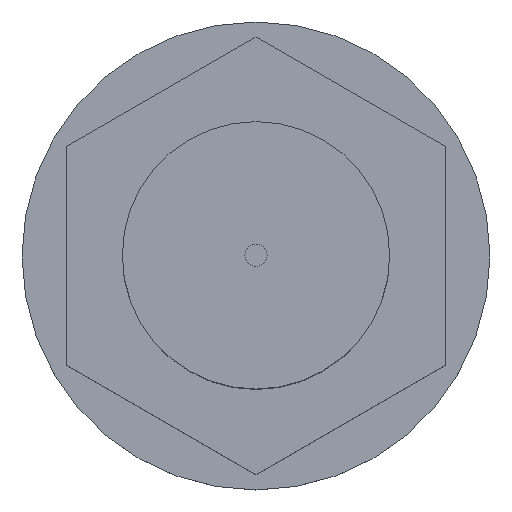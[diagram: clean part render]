
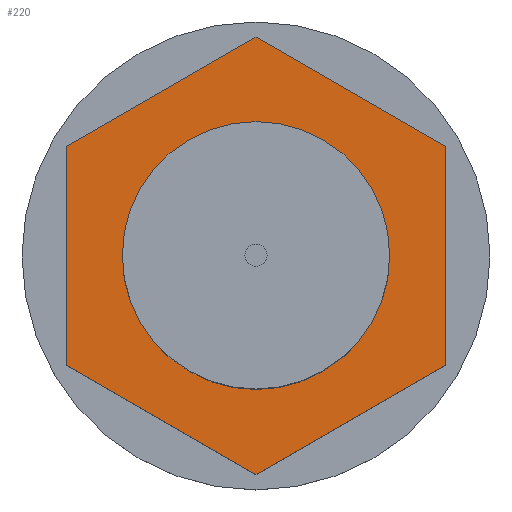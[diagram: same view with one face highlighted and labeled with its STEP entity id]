
A CAD part, top view. The second image highlights one B-rep face of the part: STEP entity #220.
In plain terms, the highlighted planar face has unit normal (0, 0, 1) as drawn and (-1, 0, 0) by its records, which use the part's own axes.
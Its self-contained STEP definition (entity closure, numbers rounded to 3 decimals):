
#190 = EDGE_CURVE ( 'NONE', #191, #192, #601, .T. ) ;
#191 = VERTEX_POINT ( 'NONE', #596 ) ;
#192 = VERTEX_POINT ( 'NONE', #595 ) ;
#195 = ORIENTED_EDGE ( 'NONE', *, *, #196, .T. ) ;
#196 = EDGE_CURVE ( 'NONE', #264, #197, #593, .T. ) ;
#197 = VERTEX_POINT ( 'NONE', #589 ) ;
#198 = ORIENTED_EDGE ( 'NONE', *, *, #199, .T. ) ;
#199 = EDGE_CURVE ( 'NONE', #197, #200, #588, .T. ) ;
#200 = VERTEX_POINT ( 'NONE', #584 ) ;
#201 = VERTEX_POINT ( 'NONE', #583 ) ;
#204 = ORIENTED_EDGE ( 'NONE', *, *, #205, .T. ) ;
#205 = EDGE_CURVE ( 'NONE', #201, #267, #582, .T. ) ;
#206 = ORIENTED_EDGE ( 'NONE', *, *, #207, .T. ) ;
#207 = EDGE_CURVE ( 'NONE', #267, #263, #578, .T. ) ;
#208 = EDGE_LOOP ( 'NONE', ( #209, #210 ) ) ;
#209 = ORIENTED_EDGE ( 'NONE', *, *, #190, .F. ) ;
#210 = ORIENTED_EDGE ( 'NONE', *, *, #211, .F. ) ;
#211 = EDGE_CURVE ( 'NONE', #192, #191, #574, .T. ) ;
#220 = ADVANCED_FACE ( 'NONE', ( #1296, #1295 ), #1294, .F. ) ;
#221 = EDGE_LOOP ( 'NONE', ( #261, #195, #198, #265, #204, #206 ) ) ;
#261 = ORIENTED_EDGE ( 'NONE', *, *, #262, .T. ) ;
#262 = EDGE_CURVE ( 'NONE', #263, #264, #842, .T. ) ;
#263 = VERTEX_POINT ( 'NONE', #1076 ) ;
#264 = VERTEX_POINT ( 'NONE', #967 ) ;
#265 = ORIENTED_EDGE ( 'NONE', *, *, #266, .T. ) ;
#266 = EDGE_CURVE ( 'NONE', #200, #201, #1061, .T. ) ;
#267 = VERTEX_POINT ( 'NONE', #898 ) ;
#295 = DIRECTION ( 'NONE',  ( -1., 0., 0. ) ) ;
#296 = CARTESIAN_POINT ( 'NONE',  ( -22.5, 0., 0. ) ) ;
#573 = AXIS2_PLACEMENT_3D ( 'NONE', #296, #295, #833 ) ;
#574 = CIRCLE ( 'NONE', #573, 6. ) ;
#575 = DIRECTION ( 'NONE',  ( 0., 0.5, -0.866 ) ) ;
#576 = VECTOR ( 'NONE', #575, 1000. ) ;
#577 = CARTESIAN_POINT ( 'NONE',  ( -22.5, 4.907, 8.5 ) ) ;
#578 = LINE ( 'NONE', #577, #576 ) ;
#579 = DIRECTION ( 'NONE',  ( 0., 1., 0. ) ) ;
#580 = VECTOR ( 'NONE', #579, 1000. ) ;
#581 = CARTESIAN_POINT ( 'NONE',  ( -22.5, -4.907, 8.5 ) ) ;
#582 = LINE ( 'NONE', #581, #580 ) ;
#583 = CARTESIAN_POINT ( 'NONE',  ( -22.5, -4.907, 8.5 ) ) ;
#584 = CARTESIAN_POINT ( 'NONE',  ( -22.5, -9.815, 0. ) ) ;
#585 = DIRECTION ( 'NONE',  ( 0., -0.5, 0.866 ) ) ;
#586 = VECTOR ( 'NONE', #585, 1000. ) ;
#587 = CARTESIAN_POINT ( 'NONE',  ( -22.5, -4.907, -8.5 ) ) ;
#588 = LINE ( 'NONE', #587, #586 ) ;
#589 = CARTESIAN_POINT ( 'NONE',  ( -22.5, -4.907, -8.5 ) ) ;
#590 = DIRECTION ( 'NONE',  ( 0., -1., 0. ) ) ;
#591 = VECTOR ( 'NONE', #590, 1000. ) ;
#592 = CARTESIAN_POINT ( 'NONE',  ( -22.5, 4.907, -8.5 ) ) ;
#593 = LINE ( 'NONE', #592, #591 ) ;
#595 = CARTESIAN_POINT ( 'NONE',  ( -22.5, -3., 5.196 ) ) ;
#596 = CARTESIAN_POINT ( 'NONE',  ( -22.5, 3., -5.196 ) ) ;
#597 = DIRECTION ( 'NONE',  ( 0., -0.5, 0.866 ) ) ;
#598 = DIRECTION ( 'NONE',  ( -1., 0., 0. ) ) ;
#599 = CARTESIAN_POINT ( 'NONE',  ( -22.5, 0., 0. ) ) ;
#600 = AXIS2_PLACEMENT_3D ( 'NONE', #599, #598, #597 ) ;
#601 = CIRCLE ( 'NONE', #600, 6. ) ;
#833 = DIRECTION ( 'NONE',  ( 0., -0.5, 0.866 ) ) ;
#839 = DIRECTION ( 'NONE',  ( 0., -0.5, -0.866 ) ) ;
#840 = VECTOR ( 'NONE', #839, 1000. ) ;
#841 = CARTESIAN_POINT ( 'NONE',  ( -22.5, 9.815, 0. ) ) ;
#842 = LINE ( 'NONE', #841, #840 ) ;
#898 = CARTESIAN_POINT ( 'NONE',  ( -22.5, 4.907, 8.5 ) ) ;
#967 = CARTESIAN_POINT ( 'NONE',  ( -22.5, 4.907, -8.5 ) ) ;
#1061 = LINE ( 'NONE', #1064, #1063 ) ;
#1062 = DIRECTION ( 'NONE',  ( 0., 0.5, 0.866 ) ) ;
#1063 = VECTOR ( 'NONE', #1062, 1000. ) ;
#1064 = CARTESIAN_POINT ( 'NONE',  ( -22.5, -9.815, 0. ) ) ;
#1076 = CARTESIAN_POINT ( 'NONE',  ( -22.5, 9.815, 0. ) ) ;
#1290 = DIRECTION ( 'NONE',  ( 0., 0.5, -0.866 ) ) ;
#1291 = DIRECTION ( 'NONE',  ( 1., 0., 0. ) ) ;
#1292 = CARTESIAN_POINT ( 'NONE',  ( -22.5, 14.722, 8.5 ) ) ;
#1293 = AXIS2_PLACEMENT_3D ( 'NONE', #1292, #1291, #1290 ) ;
#1294 = PLANE ( 'NONE',  #1293 ) ;
#1295 = FACE_BOUND ( 'NONE', #208, .T. ) ;
#1296 = FACE_OUTER_BOUND ( 'NONE', #221, .T. ) ;
